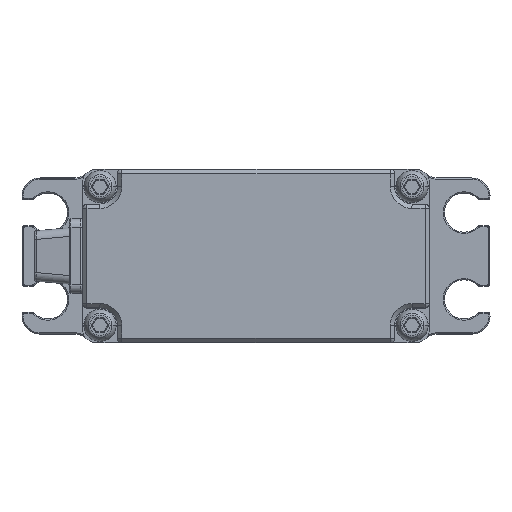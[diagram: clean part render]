
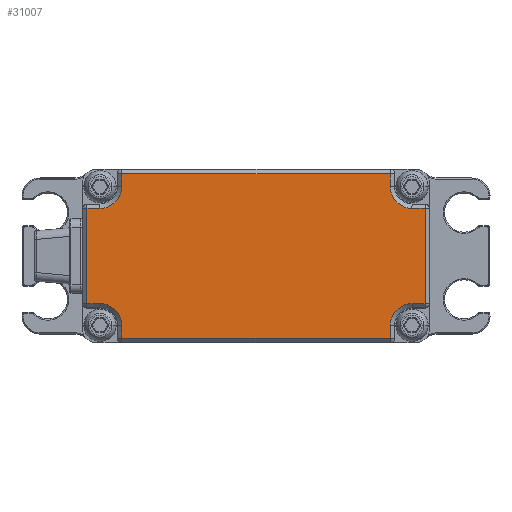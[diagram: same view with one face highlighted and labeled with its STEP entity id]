
A CAD part, front view. The second image highlights one B-rep face of the part: STEP entity #31007.
In plain terms, the highlighted planar face has unit normal (0, -1, 0).
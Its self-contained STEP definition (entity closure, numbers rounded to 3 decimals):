
#12778=DIRECTION('',(0.,0.,1.));
#12779=VECTOR('',#12778,1.5);
#12780=CARTESIAN_POINT('',(-15.5,-23.3,
8.));
#12781=LINE('',#12780,#12779);
#12785=DIRECTION('',(1.,0.,0.));
#12786=VECTOR('',#12785,31.);
#12787=CARTESIAN_POINT('',(-15.5,-23.3,
9.5));
#12788=LINE('',#12787,#12786);
#12792=DIRECTION('',(0.,0.,-1.));
#12793=VECTOR('',#12792,1.5);
#12794=CARTESIAN_POINT('',(15.5,-23.3,
9.5));
#12795=LINE('',#12794,#12793);
#12799=CARTESIAN_POINT('',(18.,-23.3,8.));
#12800=DIRECTION('',(0.,-1.,0.));
#12801=DIRECTION('',(-1.,0.,0.));
#12802=AXIS2_PLACEMENT_3D('',#12799,#12800,#12801);
#12807=DIRECTION('',(1.,0.,0.));
#12808=VECTOR('',#12807,1.5);
#12809=CARTESIAN_POINT('',(18.,-23.3,
5.5));
#12810=LINE('',#12809,#12808);
#12814=DIRECTION('',(0.,0.,-1.));
#12815=VECTOR('',#12814,11.);
#12816=CARTESIAN_POINT('',(19.5,-23.3,
5.5));
#12817=LINE('',#12816,#12815);
#12821=DIRECTION('',(-1.,0.,0.));
#12822=VECTOR('',#12821,1.5);
#12823=CARTESIAN_POINT('',(19.5,-23.3,
-5.5));
#12824=LINE('',#12823,#12822);
#12828=CARTESIAN_POINT('',(18.,-23.3,-8.));
#12829=DIRECTION('',(0.,-1.,0.));
#12830=DIRECTION('',(0.,0.,1.));
#12831=AXIS2_PLACEMENT_3D('',#12828,#12829,#12830);
#12836=DIRECTION('',(0.,0.,-1.));
#12837=VECTOR('',#12836,1.5);
#12838=CARTESIAN_POINT('',(15.5,-23.3,
-8.));
#12839=LINE('',#12838,#12837);
#12843=DIRECTION('',(-1.,0.,0.));
#12844=VECTOR('',#12843,31.);
#12845=CARTESIAN_POINT('',(15.5,-23.3,
-9.5));
#12846=LINE('',#12845,#12844);
#12850=DIRECTION('',(0.,0.,1.));
#12851=VECTOR('',#12850,1.5);
#12852=CARTESIAN_POINT('',(-15.5,-23.3,
-9.5));
#12853=LINE('',#12852,#12851);
#12857=CARTESIAN_POINT('',(-18.,-23.3,-8.));
#12858=DIRECTION('',(0.,-1.,0.));
#12859=DIRECTION('',(1.,0.,0.));
#12860=AXIS2_PLACEMENT_3D('',#12857,#12858,#12859);
#12865=DIRECTION('',(-1.,0.,0.));
#12866=VECTOR('',#12865,1.5);
#12867=CARTESIAN_POINT('',(-18.,-23.3,
-5.5));
#12868=LINE('',#12867,#12866);
#12872=DIRECTION('',(0.,0.,1.));
#12873=VECTOR('',#12872,11.);
#12874=CARTESIAN_POINT('',(-19.5,-23.3,
-5.5));
#12875=LINE('',#12874,#12873);
#12879=DIRECTION('',(1.,0.,0.));
#12880=VECTOR('',#12879,1.5);
#12881=CARTESIAN_POINT('',(-19.5,-23.3,
5.5));
#12882=LINE('',#12881,#12880);
#12886=CARTESIAN_POINT('',(-18.,-23.3,8.));
#12887=DIRECTION('',(0.,-1.,0.));
#12888=DIRECTION('',(0.,0.,-1.));
#12889=AXIS2_PLACEMENT_3D('',#12886,#12887,#12888);
#18472=CARTESIAN_POINT('',(-15.5,-23.3,
8.));
#18473=CARTESIAN_POINT('',(-15.5,-23.3,
9.5));
#18474=VERTEX_POINT('',#18472);
#18475=VERTEX_POINT('',#18473);
#18476=CARTESIAN_POINT('',(15.5,-23.3,
9.5));
#18477=VERTEX_POINT('',#18476);
#18478=CARTESIAN_POINT('',(15.5,-23.3,
8.));
#18479=VERTEX_POINT('',#18478);
#18480=CARTESIAN_POINT('',(18.,-23.3,5.5));
#18481=VERTEX_POINT('',#18480);
#18482=CARTESIAN_POINT('',(19.5,-23.3,
5.5));
#18483=VERTEX_POINT('',#18482);
#18484=CARTESIAN_POINT('',(19.5,-23.3,
-5.5));
#18485=VERTEX_POINT('',#18484);
#18486=CARTESIAN_POINT('',(18.,-23.3,
-5.5));
#18487=VERTEX_POINT('',#18486);
#18488=CARTESIAN_POINT('',(15.5,-23.3,-8.));
#18489=VERTEX_POINT('',#18488);
#18490=CARTESIAN_POINT('',(15.5,-23.3,
-9.5));
#18491=VERTEX_POINT('',#18490);
#18492=CARTESIAN_POINT('',(-15.5,-23.3,
-9.5));
#18493=VERTEX_POINT('',#18492);
#18494=CARTESIAN_POINT('',(-15.5,-23.3,
-8.));
#18495=VERTEX_POINT('',#18494);
#18496=CARTESIAN_POINT('',(-18.,-23.3,-5.5));
#18497=VERTEX_POINT('',#18496);
#18498=CARTESIAN_POINT('',(-19.5,-23.3,
-5.5));
#18499=VERTEX_POINT('',#18498);
#18500=CARTESIAN_POINT('',(-19.5,-23.3,
5.5));
#18501=VERTEX_POINT('',#18500);
#18502=CARTESIAN_POINT('',(-18.,-23.3,
5.5));
#18503=VERTEX_POINT('',#18502);
#30970=CARTESIAN_POINT('',(0.,-23.3,0.));
#30971=DIRECTION('',(0.,1.,0.));
#30972=DIRECTION('',(1.,0.,0.));
#30973=AXIS2_PLACEMENT_3D('',#30970,#30971,#30972);
#30974=PLANE('',#30973);
#30976=ORIENTED_EDGE('',*,*,#30975,.T.);
#30978=ORIENTED_EDGE('',*,*,#30977,.T.);
#30980=ORIENTED_EDGE('',*,*,#30979,.T.);
#30982=ORIENTED_EDGE('',*,*,#30981,.T.);
#30984=ORIENTED_EDGE('',*,*,#30983,.T.);
#30986=ORIENTED_EDGE('',*,*,#30985,.T.);
#30988=ORIENTED_EDGE('',*,*,#30987,.T.);
#30990=ORIENTED_EDGE('',*,*,#30989,.T.);
#30992=ORIENTED_EDGE('',*,*,#30991,.T.);
#30994=ORIENTED_EDGE('',*,*,#30993,.T.);
#30996=ORIENTED_EDGE('',*,*,#30995,.T.);
#30998=ORIENTED_EDGE('',*,*,#30997,.T.);
#31000=ORIENTED_EDGE('',*,*,#30999,.T.);
#31002=ORIENTED_EDGE('',*,*,#31001,.T.);
#31003=ORIENTED_EDGE('',*,*,#30948,.T.);
#31004=ORIENTED_EDGE('',*,*,#30960,.T.);
#31005=EDGE_LOOP('',(#30976,#30978,#30980,#30982,#30984,#30986,#30988,#30990,
#30992,#30994,#30996,#30998,#31000,#31002,#31003,#31004));
#31006=FACE_OUTER_BOUND('',#31005,.F.);
#12803=CIRCLE('',#12802,2.5);
#12832=CIRCLE('',#12831,2.5);
#12861=CIRCLE('',#12860,2.5);
#12890=CIRCLE('',#12889,2.5);
#30948=EDGE_CURVE('',#18501,#18503,#12882,.T.);
#30960=EDGE_CURVE('',#18503,#18474,#12890,.T.);
#30975=EDGE_CURVE('',#18474,#18475,#12781,.T.);
#30977=EDGE_CURVE('',#18475,#18477,#12788,.T.);
#30979=EDGE_CURVE('',#18477,#18479,#12795,.T.);
#30981=EDGE_CURVE('',#18479,#18481,#12803,.T.);
#30983=EDGE_CURVE('',#18481,#18483,#12810,.T.);
#30985=EDGE_CURVE('',#18483,#18485,#12817,.T.);
#30987=EDGE_CURVE('',#18485,#18487,#12824,.T.);
#30989=EDGE_CURVE('',#18487,#18489,#12832,.T.);
#30991=EDGE_CURVE('',#18489,#18491,#12839,.T.);
#30993=EDGE_CURVE('',#18491,#18493,#12846,.T.);
#30995=EDGE_CURVE('',#18493,#18495,#12853,.T.);
#30997=EDGE_CURVE('',#18495,#18497,#12861,.T.);
#30999=EDGE_CURVE('',#18497,#18499,#12868,.T.);
#31001=EDGE_CURVE('',#18499,#18501,#12875,.T.);
#31007=ADVANCED_FACE('',(#31006),#30974,.F.);
